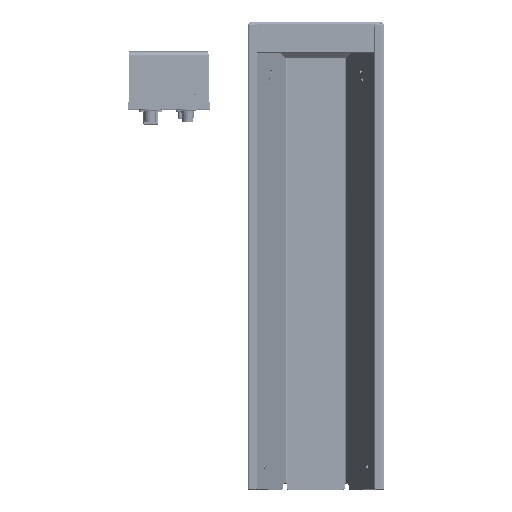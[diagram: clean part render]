
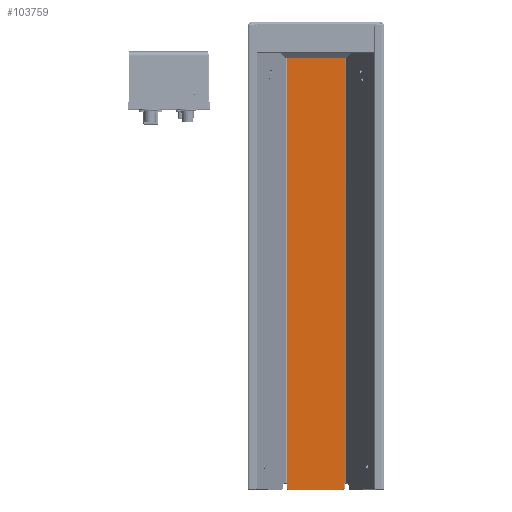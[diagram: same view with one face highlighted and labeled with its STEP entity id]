
A CAD part, top view. The second image highlights one B-rep face of the part: STEP entity #103759.
In plain terms, the highlighted planar face has unit normal (0, 0, 1).
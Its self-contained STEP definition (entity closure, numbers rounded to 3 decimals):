
#2226 = VERTEX_POINT ( 'NONE', #66890 ) ;
#5276 = AXIS2_PLACEMENT_3D ( 'NONE', #23017, #92141, #35036 ) ;
#6500 = VECTOR ( 'NONE', #36179, 1000. ) ;
#10284 = CARTESIAN_POINT ( 'NONE',  ( -46.319, 339.3, 0. ) ) ;
#11916 = ORIENTED_EDGE ( 'NONE', *, *, #78263, .T. ) ;
#12311 = LINE ( 'NONE', #58893, #29300 ) ;
#12524 = EDGE_CURVE ( 'NONE', #98146, #50266, #142706, .T. ) ;
#13343 = EDGE_CURVE ( 'NONE', #77089, #60289, #42405, .T. ) ;
#15110 = ORIENTED_EDGE ( 'NONE', *, *, #49112, .F. ) ;
#15822 = VERTEX_POINT ( 'NONE', #23236 ) ;
#16340 = VECTOR ( 'NONE', #72640, 1000. ) ;
#17514 = CARTESIAN_POINT ( 'NONE',  ( 0., 0., 0. ) ) ;
#19906 = CARTESIAN_POINT ( 'NONE',  ( 47.019, 339.3, 0. ) ) ;
#19976 = VERTEX_POINT ( 'NONE', #10284 ) ;
#20361 = VERTEX_POINT ( 'NONE', #122082 ) ;
#20602 = CARTESIAN_POINT ( 'NONE',  ( -47.058, -349.3, 0. ) ) ;
#21320 = CARTESIAN_POINT ( 'NONE',  ( 47.019, -349.291, 0. ) ) ;
#22086 = CARTESIAN_POINT ( 'NONE',  ( 47.019, 339.3, 0. ) ) ;
#22658 = ORIENTED_EDGE ( 'NONE', *, *, #101727, .T. ) ;
#23017 = CARTESIAN_POINT ( 'NONE',  ( 44.019, 347., 0. ) ) ;
#23236 = CARTESIAN_POINT ( 'NONE',  ( -47.019, 339.3, 0. ) ) ;
#23828 = CARTESIAN_POINT ( 'NONE',  ( -47.019, -350.482, 0. ) ) ;
#24817 = ORIENTED_EDGE ( 'NONE', *, *, #48844, .T. ) ;
#25273 = EDGE_CURVE ( 'NONE', #104113, #19976, #12311, .T. ) ;
#29300 = VECTOR ( 'NONE', #116007, 1000. ) ;
#31838 = CARTESIAN_POINT ( 'NONE',  ( 47.032, -349.294, 0. ) ) ;
#32297 = DIRECTION ( 'NONE',  ( 0., 0., 1. ) ) ;
#33233 = LINE ( 'NONE', #113618, #92220 ) ;
#35036 = DIRECTION ( 'NONE',  ( 1., 0., 0. ) ) ;
#35123 = DIRECTION ( 'NONE',  ( 0., 1., 0. ) ) ;
#36179 = DIRECTION ( 'NONE',  ( -1., 0., 0. ) ) ;
#36384 = PLANE ( 'NONE',  #136064 ) ;
#39113 = ORIENTED_EDGE ( 'NONE', *, *, #54822, .T. ) ;
#39867 = DIRECTION ( 'NONE',  ( -1., 0., 0. ) ) ;
#39906 = CARTESIAN_POINT ( 'NONE',  ( -47.019, -349.291, 0. ) ) ;
#40354 = ORIENTED_EDGE ( 'NONE', *, *, #145344, .T. ) ;
#41673 = CARTESIAN_POINT ( 'NONE',  ( -47.019, -349.291, 0. ) ) ;
#42405 = LINE ( 'NONE', #22086, #95190 ) ;
#46697 = LINE ( 'NONE', #126308, #6500 ) ;
#47143 = CARTESIAN_POINT ( 'NONE',  ( 46.319, 347., 0. ) ) ;
#48844 = EDGE_CURVE ( 'NONE', #78562, #2226, #107251, .T. ) ;
#49112 = EDGE_CURVE ( 'NONE', #77089, #50266, #65326, .T. ) ;
#50266 = VERTEX_POINT ( 'NONE', #98054 ) ;
#54822 = EDGE_CURVE ( 'NONE', #20361, #104113, #74817, .T. ) ;
#56289 = VERTEX_POINT ( 'NONE', #117629 ) ;
#56754 = VECTOR ( 'NONE', #39867, 1000. ) ;
#58542 = ORIENTED_EDGE ( 'NONE', *, *, #116816, .T. ) ;
#58728 = ORIENTED_EDGE ( 'NONE', *, *, #12524, .T. ) ;
#58893 = CARTESIAN_POINT ( 'NONE',  ( -46.319, 340., 0. ) ) ;
#60289 = VERTEX_POINT ( 'NONE', #70994 ) ;
#65326 = LINE ( 'NONE', #100592, #126899 ) ;
#65870 = CARTESIAN_POINT ( 'NONE',  ( 44.019, 349.3, 0. ) ) ;
#66117 = DIRECTION ( 'NONE',  ( 1., 0., 0. ) ) ;
#66890 = CARTESIAN_POINT ( 'NONE',  ( -47.058, -349.3, 0. ) ) ;
#67073 = EDGE_CURVE ( 'NONE', #97619, #20361, #108970, .T. ) ;
#67684 = CIRCLE ( 'NONE', #5276, 2.3 ) ;
#70994 = CARTESIAN_POINT ( 'NONE',  ( 46.319, 339.3, 0. ) ) ;
#72640 = DIRECTION ( 'NONE',  ( 0., 1., 0. ) ) ;
#72747 = ORIENTED_EDGE ( 'NONE', *, *, #25273, .T. ) ;
#73093 = CARTESIAN_POINT ( 'NONE',  ( 47.058, -349.3, 0. ) ) ;
#74817 = CIRCLE ( 'NONE', #120423, 2.3 ) ;
#77089 = VERTEX_POINT ( 'NONE', #19906 ) ;
#77688 = CARTESIAN_POINT ( 'NONE',  ( -47.032, -349.294, 0. ) ) ;
#78263 = EDGE_CURVE ( 'NONE', #2226, #98146, #33233, .T. ) ;
#78427 = CARTESIAN_POINT ( 'NONE',  ( -47.045, -349.297, 0. ) ) ;
#78562 = VERTEX_POINT ( 'NONE', #39906 ) ;
#83188 = EDGE_LOOP ( 'NONE', ( #24817, #11916, #58728, #15110, #110509, #58542, #40354, #138623, #39113, #72747, #22658, #127208 ) ) ;
#83746 = VECTOR ( 'NONE', #35123, 1000. ) ;
#83906 = LINE ( 'NONE', #23828, #16340 ) ;
#88192 = CARTESIAN_POINT ( 'NONE',  ( 47.045, -349.297, 0. ) ) ;
#92141 = DIRECTION ( 'NONE',  ( 0., 0., 1. ) ) ;
#92220 = VECTOR ( 'NONE', #145929, 1000. ) ;
#93302 = DIRECTION ( 'NONE',  ( 1., 0., 0. ) ) ;
#95190 = VECTOR ( 'NONE', #112252, 1000. ) ;
#97619 = VERTEX_POINT ( 'NONE', #65870 ) ;
#98054 = CARTESIAN_POINT ( 'NONE',  ( 47.019, -349.291, 0. ) ) ;
#98146 = VERTEX_POINT ( 'NONE', #73093 ) ;
#98267 = CARTESIAN_POINT ( 'NONE',  ( -46.319, 347., 0. ) ) ;
#100592 = CARTESIAN_POINT ( 'NONE',  ( 47.019, 350., 0. ) ) ;
#101727 = EDGE_CURVE ( 'NONE', #19976, #15822, #46697, .T. ) ;
#103759 = ADVANCED_FACE ( 'NONE', ( #139307 ), #36384, .T. ) ;
#104113 = VERTEX_POINT ( 'NONE', #98267 ) ;
#107251 = B_SPLINE_CURVE_WITH_KNOTS ( 'NONE', 3,
 ( #41673, #77688, #78427, #20602 ),
 .UNSPECIFIED., .F., .F.,
 ( 4, 4 ),
 ( 0., 1. ),
 .UNSPECIFIED. ) ;
#108970 = LINE ( 'NONE', #142790, #56754 ) ;
#110509 = ORIENTED_EDGE ( 'NONE', *, *, #13343, .T. ) ;
#111136 = DIRECTION ( 'NONE',  ( 0., -1., 0. ) ) ;
#112252 = DIRECTION ( 'NONE',  ( -1., 0., 0. ) ) ;
#113618 = CARTESIAN_POINT ( 'NONE',  ( 0., -349.3, 0. ) ) ;
#116007 = DIRECTION ( 'NONE',  ( 0., -1., 0. ) ) ;
#116816 = EDGE_CURVE ( 'NONE', #60289, #56289, #125287, .T. ) ;
#117629 = CARTESIAN_POINT ( 'NONE',  ( 46.319, 347., 0. ) ) ;
#120423 = AXIS2_PLACEMENT_3D ( 'NONE', #127870, #136168, #93302 ) ;
#122082 = CARTESIAN_POINT ( 'NONE',  ( -44.019, 349.3, 0. ) ) ;
#125287 = LINE ( 'NONE', #47143, #83746 ) ;
#126308 = CARTESIAN_POINT ( 'NONE',  ( -48.832, 339.3, 0. ) ) ;
#126899 = VECTOR ( 'NONE', #111136, 1000. ) ;
#127208 = ORIENTED_EDGE ( 'NONE', *, *, #136621, .F. ) ;
#127870 = CARTESIAN_POINT ( 'NONE',  ( -44.019, 347., 0. ) ) ;
#136064 = AXIS2_PLACEMENT_3D ( 'NONE', #17514, #32297, #66117 ) ;
#136168 = DIRECTION ( 'NONE',  ( 0., 0., 1. ) ) ;
#136621 = EDGE_CURVE ( 'NONE', #78562, #15822, #83906, .T. ) ;
#138623 = ORIENTED_EDGE ( 'NONE', *, *, #67073, .T. ) ;
#139307 = FACE_OUTER_BOUND ( 'NONE', #83188, .T. ) ;
#142706 = B_SPLINE_CURVE_WITH_KNOTS ( 'NONE', 3,
 ( #146014, #88192, #31838, #21320 ),
 .UNSPECIFIED., .F., .F.,
 ( 4, 4 ),
 ( 0., 1. ),
 .UNSPECIFIED. ) ;
#142790 = CARTESIAN_POINT ( 'NONE',  ( 0., 349.3, 0. ) ) ;
#145344 = EDGE_CURVE ( 'NONE', #56289, #97619, #67684, .T. ) ;
#145929 = DIRECTION ( 'NONE',  ( 1., 0., 0. ) ) ;
#146014 = CARTESIAN_POINT ( 'NONE',  ( 47.058, -349.3, 0. ) ) ;
